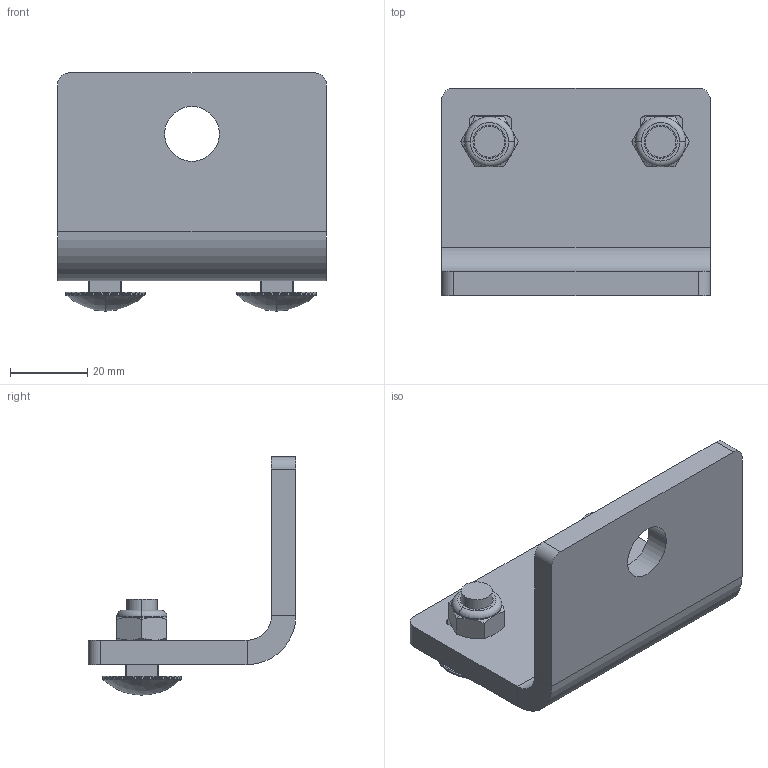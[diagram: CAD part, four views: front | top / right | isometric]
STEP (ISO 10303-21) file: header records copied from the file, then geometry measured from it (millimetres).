
FILE_DESCRIPTION((''),'2;1');
FILE_NAME('H-CEILING_ASM','2023-03-02T',('jenni.wallner'),(''),'PRO/ENGINEER BY PARAMETRIC TECHNOLOGY CORPORATION, 2012420','PRO/ENGINEER BY PARAMETRIC TECHNOLOGY CORPORATION, 2012420','');
FILE_SCHEMA(('CONFIG_CONTROL_DESIGN'));
Length unit declared in the file: inch
Products named in the file (7): 518372_1; ASM0001_ASM_1_ASM; 518371_ASM_1_ASM; H-CEILING_ASM_1_ASM; 807-3540; PRT0002; H-CEILING_ASM
Assembly tree (8 placements, depth 5):
  H-CEILING_ASM
    H-CEILING_ASM_1_ASM
      518371_ASM_1_ASM
        ASM0001_ASM_1_ASM
          518372_1
    807-3540  x2
    PRT0002  x2
Bounding box: 69.85 x 53.98 x 61.9 mm (x, y, z)
Volume: 46221.6 mm3; surface area: 19701.1 mm2
Topology: 5 solids, 5 shells, 156 faces, 367 edges, 219 vertices
Faces by surface type: cylinder 52, plane 52, cone 28, sphere 12, torus 12
Entity records: 3101 total; most frequent: CARTESIAN_POINT 634, DIRECTION 534, ORIENTED_EDGE 454, EDGE_CURVE 227, AXIS2_PLACEMENT_3D 217, VERTEX_POINT 140, EDGE_LOOP 107, CIRCLE 103
